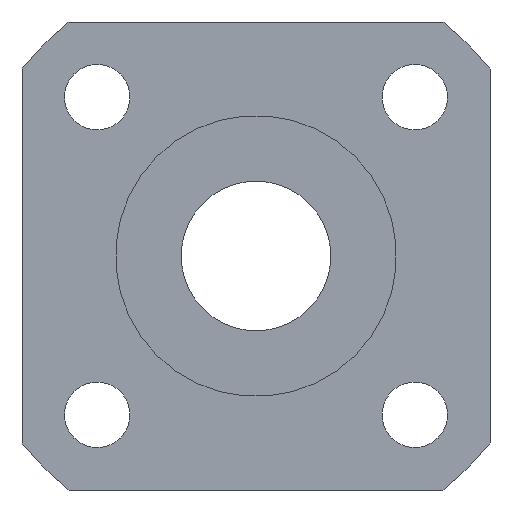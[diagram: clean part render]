
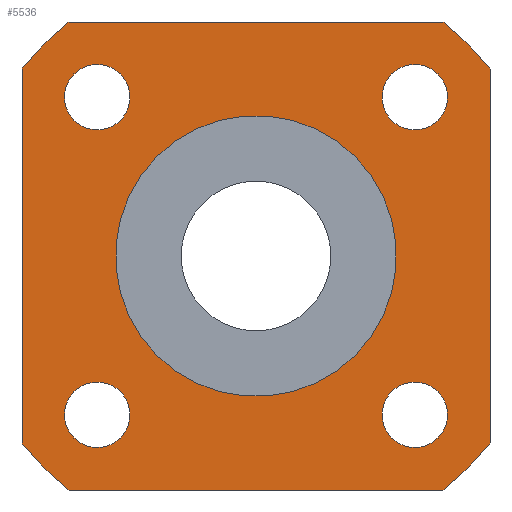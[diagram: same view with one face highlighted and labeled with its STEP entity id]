
A CAD part, left-side view. The second image highlights one B-rep face of the part: STEP entity #5536.
In plain terms, the highlighted planar face has unit normal (-1, 0, 0).
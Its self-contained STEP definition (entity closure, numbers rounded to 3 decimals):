
#110=CIRCLE('',#5874,16.);
#111=CIRCLE('',#5876,16.);
#112=CIRCLE('',#5878,16.);
#122=CIRCLE('',#5893,7.5);
#124=CIRCLE('',#5898,16.);
#125=CIRCLE('',#5900,1.75);
#126=CIRCLE('',#5901,1.75);
#127=CIRCLE('',#5902,1.75);
#128=CIRCLE('',#5903,1.75);
#326=LINE('',#8768,#968);
#327=LINE('',#8769,#969);
#328=LINE('',#8770,#970);
#329=LINE('',#8771,#971);
#968=VECTOR('',#6429,1000.);
#969=VECTOR('',#6430,1000.);
#970=VECTOR('',#6431,1000.);
#971=VECTOR('',#6432,1000.);
#1694=ORIENTED_EDGE('',*,*,#3287,.T.);
#1695=ORIENTED_EDGE('',*,*,#3267,.F.);
#1696=ORIENTED_EDGE('',*,*,#3288,.T.);
#1697=ORIENTED_EDGE('',*,*,#3270,.F.);
#1698=ORIENTED_EDGE('',*,*,#3289,.T.);
#1699=ORIENTED_EDGE('',*,*,#3284,.F.);
#1700=ORIENTED_EDGE('',*,*,#3290,.T.);
#1701=ORIENTED_EDGE('',*,*,#3265,.F.);
#1702=ORIENTED_EDGE('',*,*,#3291,.T.);
#1703=ORIENTED_EDGE('',*,*,#3292,.T.);
#1704=ORIENTED_EDGE('',*,*,#3293,.T.);
#1705=ORIENTED_EDGE('',*,*,#3294,.T.);
#1706=ORIENTED_EDGE('',*,*,#3282,.F.);
#3265=EDGE_CURVE('',#4064,#4065,#110,.T.);
#3267=EDGE_CURVE('',#4066,#4067,#111,.T.);
#3270=EDGE_CURVE('',#4068,#4069,#112,.T.);
#3282=EDGE_CURVE('',#4079,#4079,#122,.F.);
#3284=EDGE_CURVE('',#4081,#4082,#124,.T.);
#3287=EDGE_CURVE('',#4064,#4067,#326,.T.);
#3288=EDGE_CURVE('',#4066,#4069,#327,.T.);
#3289=EDGE_CURVE('',#4068,#4082,#328,.T.);
#3290=EDGE_CURVE('',#4081,#4065,#329,.T.);
#3291=EDGE_CURVE('',#4083,#4083,#125,.T.);
#3292=EDGE_CURVE('',#4084,#4084,#126,.T.);
#3293=EDGE_CURVE('',#4085,#4085,#127,.T.);
#3294=EDGE_CURVE('',#4086,#4086,#128,.T.);
#4064=VERTEX_POINT('',#8716);
#4065=VERTEX_POINT('',#8718);
#4066=VERTEX_POINT('',#8722);
#4067=VERTEX_POINT('',#8723);
#4068=VERTEX_POINT('',#8728);
#4069=VERTEX_POINT('',#8729);
#4079=VERTEX_POINT('',#8756);
#4081=VERTEX_POINT('',#8763);
#4082=VERTEX_POINT('',#8764);
#4083=VERTEX_POINT('',#8773);
#4084=VERTEX_POINT('',#8775);
#4085=VERTEX_POINT('',#8777);
#4086=VERTEX_POINT('',#8779);
#4543=EDGE_LOOP('',(#1694,#1695,#1696,#1697,#1698,#1699,#1700,#1701));
#4544=EDGE_LOOP('',(#1702));
#4545=EDGE_LOOP('',(#1703));
#4546=EDGE_LOOP('',(#1704));
#4547=EDGE_LOOP('',(#1705));
#4548=EDGE_LOOP('',(#1706));
#4941=FACE_BOUND('',#4543,.T.);
#4942=FACE_BOUND('',#4544,.T.);
#4943=FACE_BOUND('',#4545,.T.);
#4944=FACE_BOUND('',#4546,.T.);
#4945=FACE_BOUND('',#4547,.T.);
#4946=FACE_BOUND('',#4548,.T.);
#5285=PLANE('',#5899);
#5536=ADVANCED_FACE('',(#4941,#4942,#4943,#4944,#4945,#4946),#5285,.F.);
#5874=AXIS2_PLACEMENT_3D('',#8717,#6370,#6371);
#5876=AXIS2_PLACEMENT_3D('',#8721,#6375,#6376);
#5878=AXIS2_PLACEMENT_3D('',#8727,#6381,#6382);
#5893=AXIS2_PLACEMENT_3D('',#8755,#6413,#6414);
#5898=AXIS2_PLACEMENT_3D('',#8762,#6423,#6424);
#5899=AXIS2_PLACEMENT_3D('',#8767,#6427,#6428);
#5900=AXIS2_PLACEMENT_3D('',#8772,#6433,#6434);
#5901=AXIS2_PLACEMENT_3D('',#8774,#6435,#6436);
#5902=AXIS2_PLACEMENT_3D('',#8776,#6437,#6438);
#5903=AXIS2_PLACEMENT_3D('',#8778,#6439,#6440);
#6370=DIRECTION('',(1.,0.,0.));
#6371=DIRECTION('',(0.,0.707,-0.707));
#6375=DIRECTION('',(1.,0.,0.));
#6376=DIRECTION('',(0.,0.707,-0.707));
#6381=DIRECTION('',(1.,0.,0.));
#6382=DIRECTION('',(0.,0.707,-0.707));
#6413=DIRECTION('',(1.,0.,0.));
#6414=DIRECTION('',(0.,0.707,-0.707));
#6423=DIRECTION('',(1.,0.,0.));
#6424=DIRECTION('',(0.,0.707,-0.707));
#6427=DIRECTION('',(1.,0.,0.));
#6428=DIRECTION('',(0.,0.707,-0.707));
#6429=DIRECTION('',(0.,0.,1.));
#6430=DIRECTION('',(0.,1.,0.));
#6431=DIRECTION('',(0.,0.,-1.));
#6432=DIRECTION('',(0.,-1.,0.));
#6433=DIRECTION('',(1.,0.,0.));
#6434=DIRECTION('',(0.,0.707,-0.707));
#6435=DIRECTION('',(1.,0.,0.));
#6436=DIRECTION('',(0.,0.707,-0.707));
#6437=DIRECTION('',(1.,0.,0.));
#6438=DIRECTION('',(0.,0.707,-0.707));
#6439=DIRECTION('',(1.,0.,0.));
#6440=DIRECTION('',(0.,0.707,-0.707));
#8716=CARTESIAN_POINT('',(7.,-12.5,-9.987));
#8717=CARTESIAN_POINT('',(7.,0.,0.));
#8718=CARTESIAN_POINT('',(7.,-9.987,-12.5));
#8721=CARTESIAN_POINT('',(7.,0.,0.));
#8722=CARTESIAN_POINT('',(7.,-9.987,12.5));
#8723=CARTESIAN_POINT('',(7.,-12.5,9.987));
#8727=CARTESIAN_POINT('',(7.,0.,0.));
#8728=CARTESIAN_POINT('',(7.,12.5,9.987));
#8729=CARTESIAN_POINT('',(7.,9.987,12.5));
#8755=CARTESIAN_POINT('',(7.,0.,0.));
#8756=CARTESIAN_POINT('',(7.,5.303,-5.303));
#8762=CARTESIAN_POINT('',(7.,0.,0.));
#8763=CARTESIAN_POINT('',(7.,9.987,-12.5));
#8764=CARTESIAN_POINT('',(7.,12.5,-9.987));
#8767=CARTESIAN_POINT('',(7.,0.,0.));
#8768=CARTESIAN_POINT('',(7.,-12.5,12.5));
#8769=CARTESIAN_POINT('',(7.,12.5,12.5));
#8770=CARTESIAN_POINT('',(7.,12.5,-12.5));
#8771=CARTESIAN_POINT('',(7.,-12.5,-12.5));
#8772=CARTESIAN_POINT('',(7.,8.485,-8.485));
#8773=CARTESIAN_POINT('',(7.,9.723,-9.723));
#8774=CARTESIAN_POINT('',(7.,-8.485,-8.485));
#8775=CARTESIAN_POINT('',(7.,-7.248,-9.723));
#8776=CARTESIAN_POINT('',(7.,-8.485,8.485));
#8777=CARTESIAN_POINT('',(7.,-7.248,7.248));
#8778=CARTESIAN_POINT('',(7.,8.485,8.485));
#8779=CARTESIAN_POINT('',(7.,9.723,7.248));
